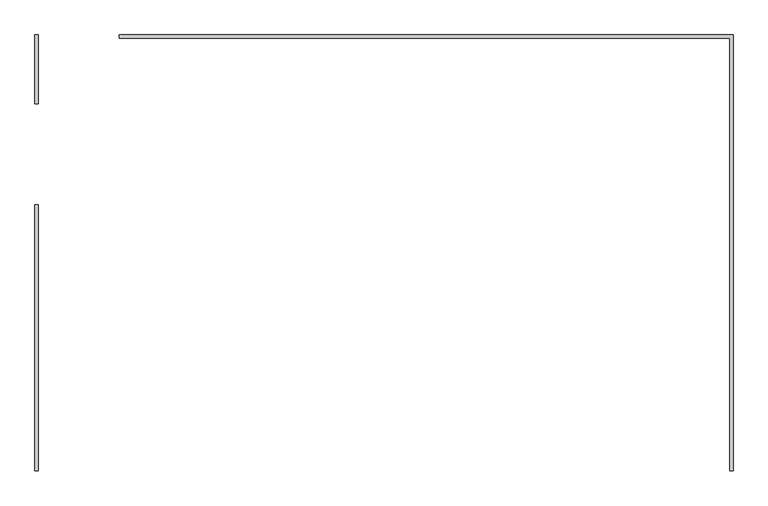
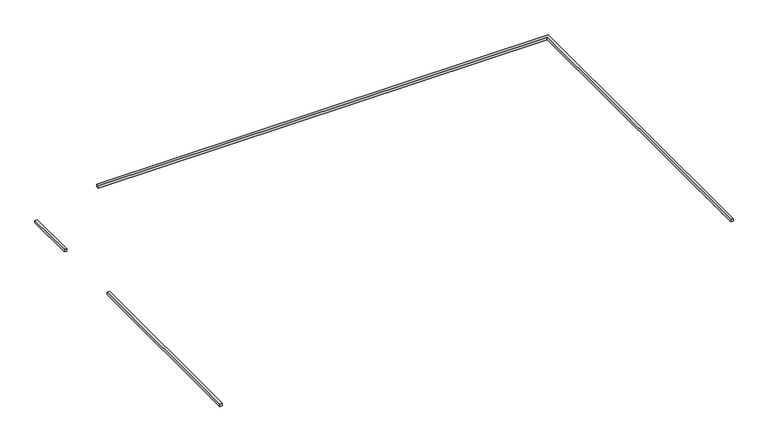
"""IFC4 building model written with IfcOpenShell, lengths in millimetres: proxy geometry, 木龙骨 : 木龙骨."""

from ifc_helpers import new_model, si_unit, frame, origin, place, context, project, spatial, polyline, outline, extrude, source, transform, mapped, element, save


def generic_models_5875759e(model_context):
    return source(origin(), model_context, "Body", "SweptSolid", [
        extrude(outline(polyline([(5910.0000006, -299.9999616), (5940.0000006, -299.9999616), (5940.0000006, -2659.8975825), (5910.0000006, -2659.8975825), (5910.0000006, -299.9999616)])), frame((0.0, 0.0, 2829.0), z_axis=(0.0, 0.0, 1.0), x_axis=(1.0, 0.0, 0.0)), (0.0, 0.0, 1.0), 30.0),
        extrude(outline(polyline([(5910.0000006, 1209.9923684), (5940.0000006, 1209.9923684), (5940.0000006, 600.0000384), (5910.0000006, 600.0000384), (5910.0000006, 1209.9923684)])), frame((0.0, 0.0, 2829.0), z_axis=(0.0, 0.0, 1.0), x_axis=(1.0, 0.0, 0.0)), (0.0, 0.0, 1.0), 30.0),
        extrude(outline(polyline([(6660.0000014, 1179.9923683), (6660.0000014, 1209.9923683), (12110.0015272, 1209.9923683), (12110.0015272, -2659.8975825), (12080.0015272, -2659.8975825), (12080.0015272, 1179.9923683), (6660.0000014, 1179.9923683)])), frame((0.0, 0.0, 3029.0), z_axis=(0.0, 0.0, 1.0), x_axis=(1.0, 0.0, 0.0)), (0.0, 0.0, 1.0), 30.0),
    ])


if __name__ == "__main__":
    model = new_model("IFC4")
    model_context = context("Model", 3, world=origin())
    ifc_project = project(units=[si_unit("LENGTHUNIT", "METRE", prefix="MILLI")], contexts=[model_context])
    site = spatial("IfcSite", under=ifc_project)
    building = spatial("IfcBuilding", under=site)
    placement = place(None, origin())
    generic_models_shape = generic_models_5875759e(model_context)
    element("IfcBuildingElementProxy", 1, Name="木龙骨 : 木龙骨", ObjectType="木龙骨 : 木龙骨", at=placement, inside=building, context=model_context, shape_type="MappedRepresentation", body=[
        mapped(generic_models_shape, transform((0.0, 0.0, 0.0), x_axis=(1.0, 0.0, 0.0), y_axis=(0.0, 1.0, 0.0), z_axis=(0.0, 0.0, 1.0))),
    ])
    save(model, "model.ifc")
